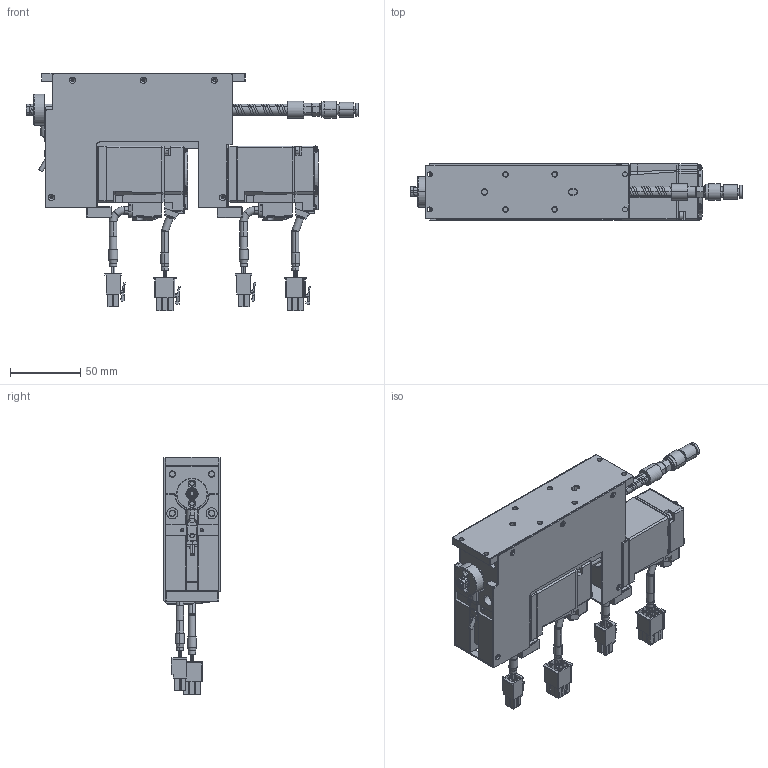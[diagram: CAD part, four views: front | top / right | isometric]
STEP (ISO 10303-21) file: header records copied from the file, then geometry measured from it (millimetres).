
FILE_DESCRIPTION((''),'2;1');
FILE_NAME('SVZ08-P10-S40-I50-EC_ASM','2024-03-21T',('12562'),(''),'PRO/ENGINEER BY PARAMETRIC TECHNOLOGY CORPORATION, 2014320','PRO/ENGINEER BY PARAMETRIC TECHNOLOGY CORPORATION, 2014320','');
FILE_SCHEMA(('AUTOMOTIVE_DESIGN { 1 0 10303 214 1 1 1 1 }'));
Products named in the file (30): FHZXQ-HC-50-01; FHZXQ-HC-50-02; _MHMF5A2L1C2; _CABLE_MOTOR_BOTTOM_01; _CABLE_MOTOR_TOP_01; _MOTOR_CONNECTOR_2; _CABLE_BRAKE_BOTTOM_01; _CABLE_BRAKE_TOP_01; _MHMF_CONNECTOR_9_PIN_A6; ASM0001_ASM; MS1H1-05B30CB-A330Z_ASM; FHZXQ-HC-50-03; FHZXQ-HC-50-04; BS0810-220S250_31387_; GX-F8A; GX-H8A; FHZXQ-HC-50-05; GX-H6-________; FHZXQ-HC-50-06; FHZXQ-HC-50-07; FHZXQ-HC-50-08; M3-12; AZZJ-01-01; SOT8SG; SR0810-SG; FHZXQ-1912-08; FHZXQ-1903-013; FHZXQ-1903-014; KSH04-M5; SVZ08-P10-S40-I50-EC_ASM
Assembly tree (35 placements, depth 4):
  SVZ08-P10-S40-I50-EC_ASM
    FHZXQ-HC-50-01
    FHZXQ-HC-50-02  x2
    MS1H1-05B30CB-A330Z_ASM  x2
      ASM0001_ASM
        _MHMF5A2L1C2
        _CABLE_MOTOR_BOTTOM_01
        _CABLE_MOTOR_TOP_01
        _MOTOR_CONNECTOR_2
        _CABLE_BRAKE_BOTTOM_01
        _CABLE_BRAKE_TOP_01
        _MHMF_CONNECTOR_9_PIN_A6
    FHZXQ-HC-50-03
    FHZXQ-HC-50-04
    BS0810-220S250_31387_
    GX-F8A
    GX-H8A
    FHZXQ-HC-50-05
    GX-H6-________
    FHZXQ-HC-50-06
    FHZXQ-HC-50-07
    FHZXQ-HC-50-08
    M3-12  x4
    AZZJ-01-01  x2
    SOT8SG
    SR0810-SG
    FHZXQ-1912-08
    FHZXQ-1903-013
    FHZXQ-1903-014
    KSH04-M5
Bounding box: 236.5 x 40 x 169.25 mm (x, y, z)
Volume: 589875 mm3; surface area: 190882.6 mm2
Topology: 39 solids, 102 shells, 2986 faces, 7749 edges, 5008 vertices
Faces by surface type: plane 1479, cylinder 1033, cone 295, torus 122, sphere 48, bspline 9
Entity records: 86038 total; most frequent: CARTESIAN_POINT 16212, DIRECTION 10764, ORIENTED_EDGE 10172, EDGE_CURVE 5197, PRESENTATION_STYLE_ASSIGNMENT 4668, AXIS2_PLACEMENT_3D 3890, STYLED_ITEM 3831, CURVE_STYLE 3778
